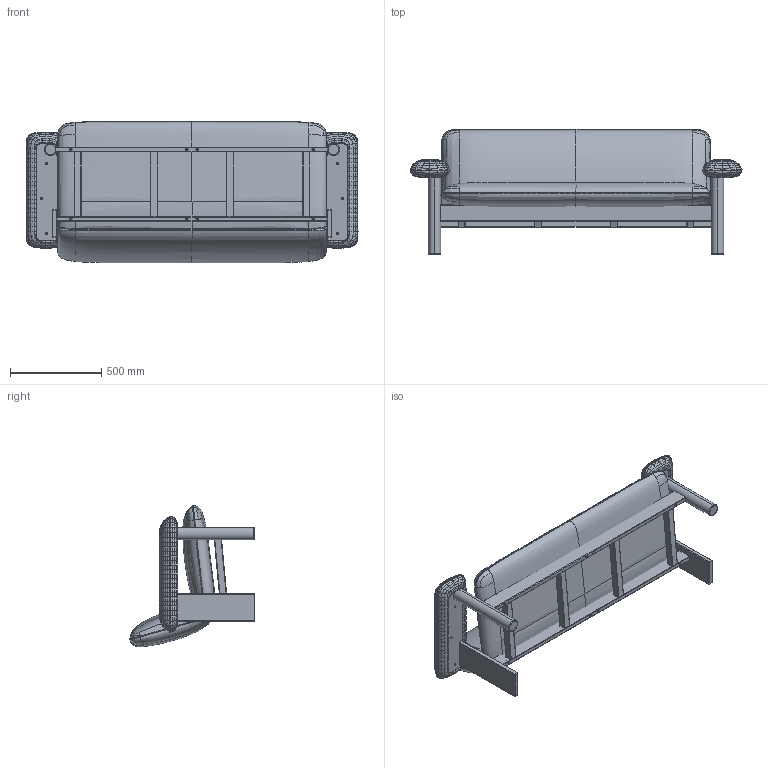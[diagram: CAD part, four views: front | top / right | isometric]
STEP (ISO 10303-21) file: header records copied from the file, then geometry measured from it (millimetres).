
FILE_DESCRIPTION (( 'STEP AP214' ), '1' );
FILE_NAME ('Brasilia Sofa textile.STEP', '2024-07-02T08:25:32', ( '' ), ( '' ), 'SwSTEP 2.0', 'SolidWorks 2022', '' );
FILE_SCHEMA (( 'AUTOMOTIVE_DESIGN' ));
Length unit declared in the file: millimetre
Products named in the file (18): MirrorBrasilia Sofa 2 - armrest 1; MirrorBrasilia Sofa 2 - leg back; Brasilia Sofa textile; Brasilia Sofa 2 - joinery front; Brasilia Sofa 2 - leg front; Brasilia Sofa 2 - joinery back; Brasilia Sofa 2 - leg back; MirrorBrasilia Sofa 2 - armrest 2; Brasilia Sofa 2 - joinery side; Brasilia Sofa 2 - joinery side 2; MirrorBrasilia Sofa 2 - joinery side; MirrorBrasilia Sofa 2 - joinery side 2; Brasilia Sofa 2 - seat-back upholstery; Brasilia Sofa 2 - armrest 1; MirrorBrasilia Sofa 2 - armrest upholstery; MirrorBrasilia Sofa 2 - leg front; Brasilia Sofa 2 - armrest 2; Brasilia Sofa 2 - armrest upholstery
Assembly tree (17 placements, depth 2):
  Brasilia Sofa textile
    Brasilia Sofa 2 - leg front
    Brasilia Sofa 2 - leg back
    Brasilia Sofa 2 - joinery front
    Brasilia Sofa 2 - joinery back
    Brasilia Sofa 2 - joinery side
    Brasilia Sofa 2 - joinery side 2
    Brasilia Sofa 2 - armrest 1
    Brasilia Sofa 2 - armrest 2
    MirrorBrasilia Sofa 2 - leg front
    MirrorBrasilia Sofa 2 - leg back
    MirrorBrasilia Sofa 2 - joinery side
    MirrorBrasilia Sofa 2 - armrest 1
    MirrorBrasilia Sofa 2 - armrest 2
    Brasilia Sofa 2 - seat-back upholstery
    Brasilia Sofa 2 - armrest upholstery
    MirrorBrasilia Sofa 2 - armrest upholstery
    MirrorBrasilia Sofa 2 - joinery side 2
Bounding box: 1816.54 x 685.71 x 773.47 mm (x, y, z)
Volume: 219814540.1 mm3; surface area: 6301369.7 mm2
Topology: 22 solids, 22 shells, 1782 faces, 3856 edges, 2114 vertices
Faces by surface type: bspline 1524, cylinder 134, plane 96, cone 12, torus 8, sphere 8
Entity records: 902946 total; most frequent: CARTESIAN_POINT 875367, ORIENTED_EDGE 7696, EDGE_CURVE 3848, B_SPLINE_CURVE_WITH_KNOTS 3178, VERTEX_POINT 2114, EDGE_LOOP 1830, ADVANCED_FACE 1782, FACE_OUTER_BOUND 1782
